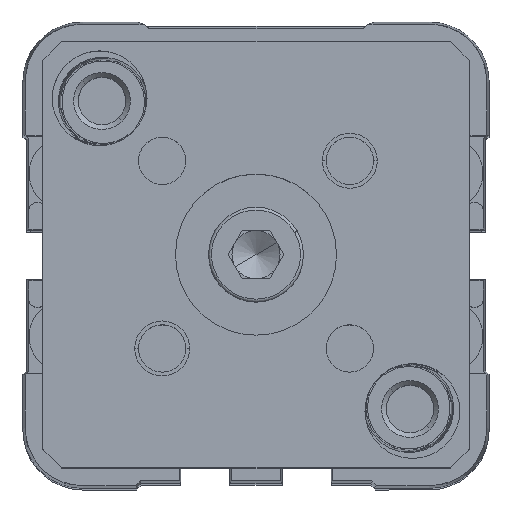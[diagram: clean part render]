
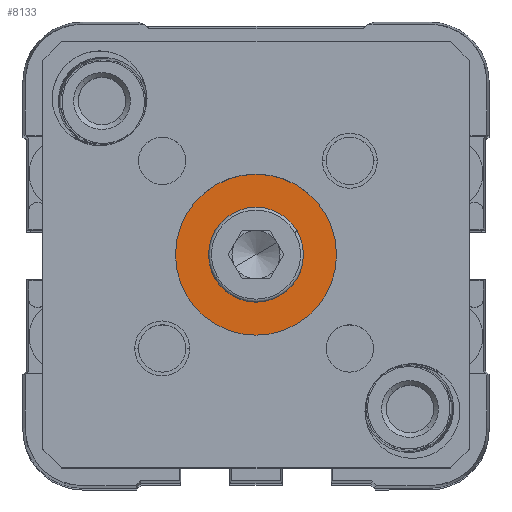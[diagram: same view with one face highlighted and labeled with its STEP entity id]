
A CAD part, top view. The second image highlights one B-rep face of the part: STEP entity #8133.
In plain terms, the highlighted planar face has unit normal (0, 0, 1).
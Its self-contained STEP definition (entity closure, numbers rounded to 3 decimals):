
#7229 = EDGE_CURVE ( 'NONE', #7230, #7231, #24483, .T. ) ;
#7230 = VERTEX_POINT ( 'NONE', #24474 ) ;
#7231 = VERTEX_POINT ( 'NONE', #24473 ) ;
#7806 = EDGE_CURVE ( 'NONE', #7807, #7808, #26627, .T. ) ;
#7807 = VERTEX_POINT ( 'NONE', #26622 ) ;
#7808 = VERTEX_POINT ( 'NONE', #26621 ) ;
#8110 = EDGE_LOOP ( 'NONE', ( #8111, #8112 ) ) ;
#8111 = ORIENTED_EDGE ( 'NONE', *, *, #7229, .F. ) ;
#8112 = ORIENTED_EDGE ( 'NONE', *, *, #8113, .F. ) ;
#8113 = EDGE_CURVE ( 'NONE', #7231, #7230, #27157, .T. ) ;
#8114 = EDGE_LOOP ( 'NONE', ( #8115, #8116 ) ) ;
#8115 = ORIENTED_EDGE ( 'NONE', *, *, #8130, .T. ) ;
#8116 = ORIENTED_EDGE ( 'NONE', *, *, #7806, .T. ) ;
#8130 = EDGE_CURVE ( 'NONE', #7808, #7807, #27205, .T. ) ;
#8133 = ADVANCED_FACE ( 'NONE', ( #27201, #27200 ), #27199, .T. ) ;
#24473 = CARTESIAN_POINT ( 'NONE',  ( -4.33, -2.5, 3.5 ) ) ;
#24474 = CARTESIAN_POINT ( 'NONE',  ( 4.33, 2.5, 3.5 ) ) ;
#24475 = DIRECTION ( 'NONE',  ( 1., 0., 0. ) ) ;
#24476 = DIRECTION ( 'NONE',  ( 0., 0., 1. ) ) ;
#24477 = CARTESIAN_POINT ( 'NONE',  ( 0., 0., 3.5 ) ) ;
#24478 = AXIS2_PLACEMENT_3D ( 'NONE', #24477, #24476, #24475 ) ;
#24483 = CIRCLE ( 'NONE', #24478, 5. ) ;
#26621 = CARTESIAN_POINT ( 'NONE',  ( 8.5, 0., 3.5 ) ) ;
#26622 = CARTESIAN_POINT ( 'NONE',  ( -8.5, 0., 3.5 ) ) ;
#26623 = DIRECTION ( 'NONE',  ( 1., 0., 0. ) ) ;
#26624 = DIRECTION ( 'NONE',  ( 0., 0., 1. ) ) ;
#26625 = CARTESIAN_POINT ( 'NONE',  ( 0., 0., 3.5 ) ) ;
#26626 = AXIS2_PLACEMENT_3D ( 'NONE', #26625, #26624, #26623 ) ;
#26627 = CIRCLE ( 'NONE', #26626, 8.5 ) ;
#27136 = CARTESIAN_POINT ( 'NONE',  ( 0., 0., 3.5 ) ) ;
#27153 = DIRECTION ( 'NONE',  ( 1., 0., 0. ) ) ;
#27154 = DIRECTION ( 'NONE',  ( 0., 0., 1. ) ) ;
#27155 = CARTESIAN_POINT ( 'NONE',  ( 0., 0., 3.5 ) ) ;
#27156 = AXIS2_PLACEMENT_3D ( 'NONE', #27155, #27154, #27153 ) ;
#27157 = CIRCLE ( 'NONE', #27156, 5. ) ;
#27194 = DIRECTION ( 'NONE',  ( 1., 0., 0. ) ) ;
#27195 = DIRECTION ( 'NONE',  ( 0., 0., 1. ) ) ;
#27196 = CARTESIAN_POINT ( 'NONE',  ( 0., 0., 3.5 ) ) ;
#27198 = AXIS2_PLACEMENT_3D ( 'NONE', #27196, #27195, #27194 ) ;
#27199 = PLANE ( 'NONE',  #27198 ) ;
#27200 = FACE_OUTER_BOUND ( 'NONE', #8114, .T. ) ;
#27201 = FACE_BOUND ( 'NONE', #8110, .T. ) ;
#27202 = DIRECTION ( 'NONE',  ( 1., 0., 0. ) ) ;
#27203 = DIRECTION ( 'NONE',  ( 0., 0., 1. ) ) ;
#27204 = AXIS2_PLACEMENT_3D ( 'NONE', #27136, #27203, #27202 ) ;
#27205 = CIRCLE ( 'NONE', #27204, 8.5 ) ;
